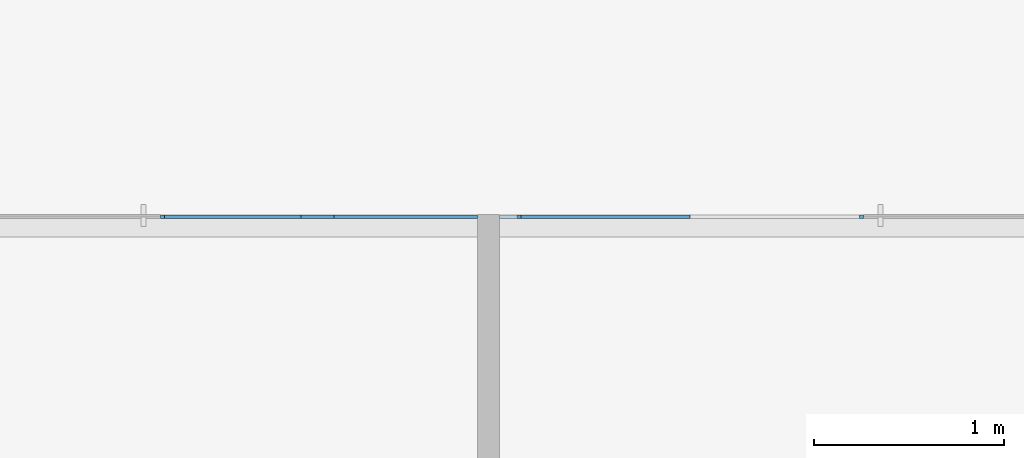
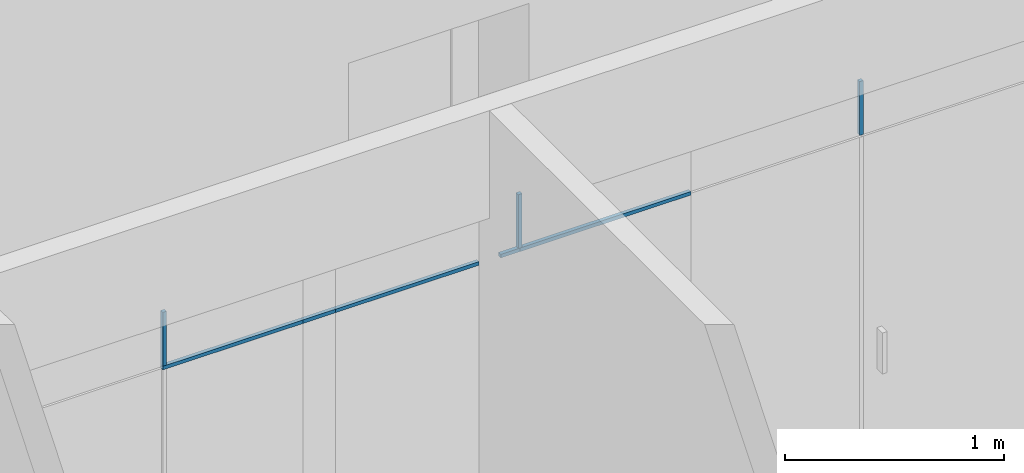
# One storey, part 10 of 73: 8 members, 2 elements without a shape of their own.
"""IFC2X3 building model written with IfcOpenShell, lengths in millimetres."""

from ifc_helpers import new_model, entity, si_unit, converted_unit, derived_unit, direction, frame, origin, origin_2d_with_axis, place, context, subcontext, project, spatial, rectangle, extrude, source, transform, mapped, material, type_object, type_shapes, element, aggregate, save


model = new_model("IFC2X3")

# Units and contexts
model_context = context("Model", 3, precision=0.01, world=origin(), true_north=direction((6.12303176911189e-17, 1.0)))
body_context = subcontext(model_context, "Body", "Model", "MODEL_VIEW")
ifc_project = project(units=[si_unit("LENGTHUNIT", "METRE", prefix="MILLI"), si_unit("AREAUNIT", "SQUARE_METRE"), si_unit("VOLUMEUNIT", "CUBIC_METRE"), converted_unit("PLANEANGLEUNIT", "DEGREE", entity("IfcRatioMeasure", 0.0174532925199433), si_unit("PLANEANGLEUNIT", "RADIAN"), dimensions=[0, 0, 0, 0, 0, 0, 0]), si_unit("MASSUNIT", "GRAM", prefix="KILO"), derived_unit("MASSDENSITYUNIT", [(si_unit("MASSUNIT", "GRAM", prefix="KILO"), 1), (si_unit("LENGTHUNIT", "METRE"), -3)]), si_unit("TIMEUNIT", "SECOND"), si_unit("FREQUENCYUNIT", "HERTZ"), si_unit("THERMODYNAMICTEMPERATUREUNIT", "DEGREE_CELSIUS"), derived_unit("THERMALTRANSMITTANCEUNIT", [(si_unit("MASSUNIT", "GRAM", prefix="KILO"), 1), (si_unit("THERMODYNAMICTEMPERATUREUNIT", "KELVIN"), -1), (si_unit("TIMEUNIT", "SECOND"), -3)]), derived_unit("VOLUMETRICFLOWRATEUNIT", [(si_unit("LENGTHUNIT", "METRE"), 3), (si_unit("TIMEUNIT", "SECOND"), -1)]), si_unit("ELECTRICCURRENTUNIT", "AMPERE"), si_unit("ELECTRICVOLTAGEUNIT", "VOLT"), si_unit("POWERUNIT", "WATT"), si_unit("FORCEUNIT", "NEWTON", prefix="KILO"), si_unit("ILLUMINANCEUNIT", "LUX"), si_unit("LUMINOUSFLUXUNIT", "LUMEN"), si_unit("LUMINOUSINTENSITYUNIT", "CANDELA"), derived_unit("USERDEFINED", [(si_unit("MASSUNIT", "GRAM", prefix="KILO"), -1), (si_unit("LENGTHUNIT", "METRE"), -2), (si_unit("TIMEUNIT", "SECOND"), 3), (si_unit("LUMINOUSFLUXUNIT", "LUMEN"), 1)]), derived_unit("LINEARVELOCITYUNIT", [(si_unit("LENGTHUNIT", "METRE"), 1), (si_unit("TIMEUNIT", "SECOND"), -1)]), si_unit("PRESSUREUNIT", "PASCAL"), derived_unit("USERDEFINED", [(si_unit("LENGTHUNIT", "METRE"), -2), (si_unit("MASSUNIT", "GRAM", prefix="KILO"), 1), (si_unit("TIMEUNIT", "SECOND"), -2)])], contexts=[model_context])

# Site, building, storey
site_placement = place(None, frame((-151.875543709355, 2715.0, 0.0)))
site = spatial("IfcSite", under=ifc_project, at=site_placement, Name="Surface", CompositionType="ELEMENT")
building_placement = place(site_placement, origin())
building = spatial("IfcBuilding", under=site, at=building_placement, CompositionType="ELEMENT")
storey_placement = place(building_placement, frame((0.0, 0.0, 6730.43000000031)))
storey = spatial("IfcBuildingStorey", under=building, at=storey_placement, Name="3 korrus", CompositionType="ELEMENT", Elevation=6730.43000000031)

# Curtain wall, members
curtain_wall_type_1 = type_object("IfcCurtainWallType", Name="Curtain Wall:Klaassein KLS-19", PredefinedType="NOTDEFINED")
curtain_wall_1_placement = place(storey_placement, frame((0.0, 0.0, -6730.43000000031)))
curtain_wall_1 = element("IfcCurtainWall", 1, at=curtain_wall_1_placement, inside=storey, type_object=curtain_wall_type_1, Name="Curtain Wall:Klaassein KLS-19", ObjectType="Curtain Wall:Klaassein KLS-19")
ifc_material = material(Name="__Uks_hele tamm")
member_type_1 = type_object("IfcMemberType", Name="20 x 20mm", PredefinedType="MEMBER")
shared_shape_1 = source(origin(), body_context, "Body", "SweptSolid", [
    extrude(rectangle(XDim=20.0, YDim=20.0, at=origin_2d_with_axis()), frame((0.0, 0.0, -300.0), z_axis=(0.0, 0.0, 1.0), x_axis=(0.0, -1.0, 0.0)), (0.0, 0.0, 1.0), 299.999999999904),
])
type_shapes(member_type_1, [shared_shape_1])
member_1_placement = place(storey_placement, frame((20262.0647261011, 4355.04493399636, 2100.0), z_axis=(0.0, 0.0, -1.0), x_axis=(-1.0, 0.0, 0.0)))
member_1 = element("IfcMember", 2, at=member_1_placement, type_object=member_type_1, material=ifc_material, Name="Rectangular Mullion:20 x 20mm", ObjectType="20 x 20mm", context=body_context, shape_type="MappedRepresentation", body=[
    mapped(shared_shape_1, transform((0.0, 0.0, 0.0), scale=1.0)),
])
member_2_placement = place(storey_placement, frame((18463.0647261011, 4355.04493399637, 2100.0), z_axis=(0.0, 0.0, -1.0), x_axis=(-1.0, 0.0, 0.0)))
member_2 = element("IfcMember", 3, at=member_2_placement, type_object=member_type_1, material=ifc_material, Name="Rectangular Mullion:20 x 20mm", ObjectType="20 x 20mm", context=body_context, shape_type="MappedRepresentation", body=[
    mapped(shared_shape_1, transform((0.0, 0.0, 0.0), scale=1.0)),
])

# Curtain wall, member
curtain_wall_type_2 = type_object("IfcCurtainWallType", Name="Curtain Wall:Klaassein KLS-18", PredefinedType="NOTDEFINED")
curtain_wall_2_placement = place(storey_placement, frame((0.0, 0.0, -6730.43000000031)))
curtain_wall_2 = element("IfcCurtainWall", 4, at=curtain_wall_2_placement, inside=storey, type_object=curtain_wall_type_2, Name="Curtain Wall:Klaassein KLS-18", ObjectType="Curtain Wall:Klaassein KLS-18")
member_type_2 = type_object("IfcMemberType", Name="20 x 20mm", PredefinedType="MEMBER")
shared_shape_2 = source(origin(), body_context, "Body", "SweptSolid", [
    extrude(rectangle(XDim=20.0, YDim=20.0, at=origin_2d_with_axis()), frame((0.0, 0.0, -300.0), z_axis=(0.0, 0.0, 1.0), x_axis=(0.0, -1.0, 0.0)), (0.0, 0.0, 1.0), 299.999999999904),
])
type_shapes(member_type_2, [shared_shape_2])
member_3_placement = place(storey_placement, frame((16589.4201096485, 4355.04493399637, 2100.0), z_axis=(0.0, 0.0, -1.0), x_axis=(1.0, 0.0, 0.0)))
member_3 = element("IfcMember", 5, at=member_3_placement, type_object=member_type_2, material=ifc_material, Name="Rectangular Mullion:20 x 20mm", ObjectType="20 x 20mm", context=body_context, shape_type="MappedRepresentation", body=[
    mapped(shared_shape_2, transform((0.0, 0.0, 0.0), scale=1.0)),
])

# Member
member_type_3 = type_object("IfcMemberType", Name="20 x 20mm", PredefinedType="MEMBER")
shared_shape_3 = source(origin(), body_context, "Body", "SweptSolid", [
    extrude(rectangle(XDim=20.0, YDim=20.0, at=origin_2d_with_axis()), frame((0.0, 0.0, -899.0), z_axis=(0.0, 0.0, 1.0), x_axis=(0.0, -1.0, 0.0)), (0.0, 0.0, 1.0), 899.000000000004),
])
type_shapes(member_type_3, [shared_shape_3])
member_4_placement = place(storey_placement, frame((18463.0647261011, 4355.04493399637, 2090.0), z_axis=(-1.0, 0.0, 0.0), x_axis=(0.0, 0.0, 1.0)))
member_4 = element("IfcMember", 6, at=member_4_placement, type_object=member_type_3, material=ifc_material, Name="Rectangular Mullion:20 x 20mm", ObjectType="20 x 20mm", context=body_context, shape_type="MappedRepresentation", body=[
    mapped(shared_shape_3, transform((0.0, 0.0, 0.0), scale=1.0)),
])

member_type_4 = type_object("IfcMemberType", Name="20 x 20mm", PredefinedType="MEMBER")
shared_shape_4 = source(origin(), body_context, "Body", "SweptSolid", [
    extrude(rectangle(XDim=20.0, YDim=20.0, at=origin_2d_with_axis()), frame((0.0, 0.0, -101.999999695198), z_axis=(0.0, 0.0, 1.0), x_axis=(0.0, -1.0, 0.0)), (0.0, 0.0, 1.0), 101.999999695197),
])
type_shapes(member_type_4, [shared_shape_4])
member_5_placement = place(storey_placement, frame((18361.0647264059, 4355.04493399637, 2090.0), z_axis=(-1.0, 0.0, 0.0), x_axis=(0.0, 0.0, 1.0)))
member_5 = element("IfcMember", 7, at=member_5_placement, type_object=member_type_4, material=ifc_material, Name="Rectangular Mullion:20 x 20mm", ObjectType="20 x 20mm", context=body_context, shape_type="MappedRepresentation", body=[
    mapped(shared_shape_4, transform((0.0, 0.0, 0.0), scale=1.0)),
])

aggregate(curtain_wall_1, [member_1, member_4, member_5, member_2])

member_type_5 = type_object("IfcMemberType", Name="20 x 20mm", PredefinedType="MEMBER")
shared_shape_5 = source(origin(), body_context, "Body", "SweptSolid", [
    extrude(rectangle(XDim=20.0, YDim=20.0, at=origin_2d_with_axis()), frame((0.0, 0.0, -738.144617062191), z_axis=(0.0, 0.0, 1.0), x_axis=(0.0, -1.0, 0.0)), (0.0, 0.0, 1.0), 738.144617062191),
])
type_shapes(member_type_5, [shared_shape_5])
member_6_placement = place(storey_placement, frame((17317.5647267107, 4355.04493399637, 2090.0), z_axis=(1.0, 0.0, 0.0), x_axis=(0.0, 0.0, 1.0)))
member_6 = element("IfcMember", 8, at=member_6_placement, type_object=member_type_5, material=ifc_material, Name="Rectangular Mullion:20 x 20mm", ObjectType="20 x 20mm", context=body_context, shape_type="MappedRepresentation", body=[
    mapped(shared_shape_5, transform((0.0, 0.0, 0.0), scale=1.0)),
])

member_type_6 = type_object("IfcMemberType", Name="20 x 20mm", PredefinedType="MEMBER")
shared_shape_6 = source(origin(), body_context, "Body", "SweptSolid", [
    extrude(rectangle(XDim=20.0, YDim=20.0, at=origin_2d_with_axis()), frame((0.0, 0.0, -171.855382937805), z_axis=(0.0, 0.0, 1.0), x_axis=(0.0, -1.0, 0.0)), (0.0, 0.0, 1.0), 171.855382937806),
])
type_shapes(member_type_6, [shared_shape_6])
member_7_placement = place(storey_placement, frame((17489.4201096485, 4355.04493399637, 2090.0), z_axis=(1.0, 0.0, 0.0), x_axis=(0.0, 0.0, 1.0)))
member_7 = element("IfcMember", 9, at=member_7_placement, type_object=member_type_6, material=ifc_material, Name="Rectangular Mullion:20 x 20mm", ObjectType="20 x 20mm", context=body_context, shape_type="MappedRepresentation", body=[
    mapped(shared_shape_6, transform((0.0, 0.0, 0.0), scale=1.0)),
])

member_type_7 = type_object("IfcMemberType", Name="20 x 20mm", PredefinedType="MEMBER")
shared_shape_7 = source(origin(), body_context, "Body", "SweptSolid", [
    extrude(rectangle(XDim=20.0, YDim=20.0, at=origin_2d_with_axis()), frame((0.0, 0.0, -755.644616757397), z_axis=(0.0, 0.0, 1.0), x_axis=(0.0, -1.0, 0.0)), (0.0, 0.0, 1.0), 755.644616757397),
])
type_shapes(member_type_7, [shared_shape_7])
member_8_placement = place(storey_placement, frame((18245.0647264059, 4355.04493399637, 2090.0), z_axis=(1.0, 0.0, 0.0), x_axis=(0.0, 0.0, 1.0)))
member_8 = element("IfcMember", 10, at=member_8_placement, type_object=member_type_7, material=ifc_material, Name="Rectangular Mullion:20 x 20mm", ObjectType="20 x 20mm", context=body_context, shape_type="MappedRepresentation", body=[
    mapped(shared_shape_7, transform((0.0, 0.0, 0.0), scale=1.0)),
])

aggregate(curtain_wall_2, [member_6, member_7, member_3, member_8])

save(model, "model.ifc")
